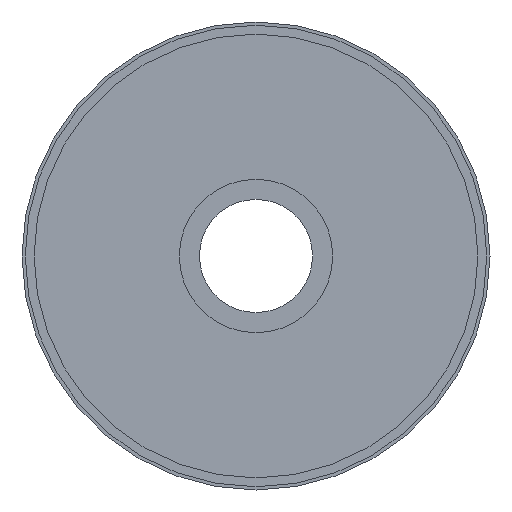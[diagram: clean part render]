
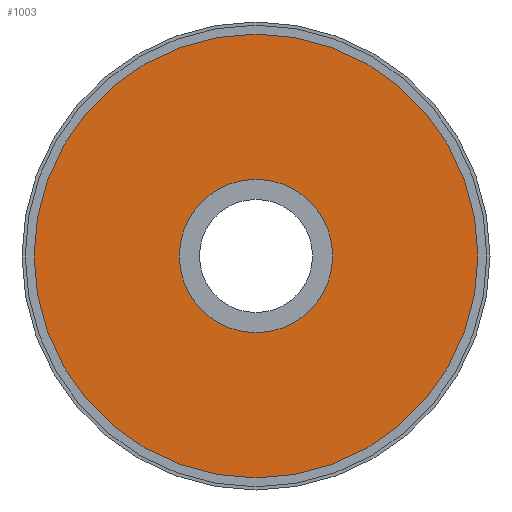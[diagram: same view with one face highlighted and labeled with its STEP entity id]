
A CAD part, front view. The second image highlights one B-rep face of the part: STEP entity #1003.
In plain terms, the highlighted planar face has unit normal (0, -1, 0).
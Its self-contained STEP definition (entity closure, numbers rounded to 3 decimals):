
#10 = CIRCLE ( 'NONE', #750, 38.05 ) ;
#11 = CARTESIAN_POINT ( 'NONE',  ( 0., 38., 0. ) ) ;
#15 = AXIS2_PLACEMENT_3D ( 'NONE', #1171, #841, #626 ) ;
#62 = EDGE_CURVE ( 'NONE', #587, #990, #10, .T. ) ;
#92 = AXIS2_PLACEMENT_3D ( 'NONE', #794, #119, #566 ) ;
#95 = EDGE_LOOP ( 'NONE', ( #738, #666 ) ) ;
#112 = EDGE_LOOP ( 'NONE', ( #642, #736 ) ) ;
#117 = DIRECTION ( 'NONE',  ( 0., -1., 0. ) ) ;
#119 = DIRECTION ( 'NONE',  ( 0., -1., 0. ) ) ;
#169 = DIRECTION ( 'NONE',  ( 0., 0., -1. ) ) ;
#195 = CARTESIAN_POINT ( 'NONE',  ( 0., 38., -38.05 ) ) ;
#331 = CIRCLE ( 'NONE', #941, 137.5 ) ;
#332 = CARTESIAN_POINT ( 'NONE',  ( 0., 38., 0. ) ) ;
#394 = FACE_BOUND ( 'NONE', #112, .T. ) ;
#399 = AXIS2_PLACEMENT_3D ( 'NONE', #332, #117, #1225 ) ;
#403 = EDGE_CURVE ( 'NONE', #990, #587, #1240, .T. ) ;
#447 = DIRECTION ( 'NONE',  ( 0., -1., 0. ) ) ;
#451 = CARTESIAN_POINT ( 'NONE',  ( 0., 38., -137.5 ) ) ;
#566 = DIRECTION ( 'NONE',  ( 0., 0., -1. ) ) ;
#572 = CIRCLE ( 'NONE', #92, 137.5 ) ;
#587 = VERTEX_POINT ( 'NONE', #195 ) ;
#626 = DIRECTION ( 'NONE',  ( 0., 0., -1. ) ) ;
#642 = ORIENTED_EDGE ( 'NONE', *, *, #62, .F. ) ;
#661 = EDGE_CURVE ( 'NONE', #743, #858, #331, .T. ) ;
#666 = ORIENTED_EDGE ( 'NONE', *, *, #661, .T. ) ;
#736 = ORIENTED_EDGE ( 'NONE', *, *, #403, .F. ) ;
#738 = ORIENTED_EDGE ( 'NONE', *, *, #1373, .T. ) ;
#743 = VERTEX_POINT ( 'NONE', #777 ) ;
#744 = CARTESIAN_POINT ( 'NONE',  ( 0., 38., 38.05 ) ) ;
#750 = AXIS2_PLACEMENT_3D ( 'NONE', #11, #447, #785 ) ;
#777 = CARTESIAN_POINT ( 'NONE',  ( 0., 38., 137.5 ) ) ;
#785 = DIRECTION ( 'NONE',  ( 0., 0., -1. ) ) ;
#794 = CARTESIAN_POINT ( 'NONE',  ( 0., 38., 0. ) ) ;
#836 = FACE_OUTER_BOUND ( 'NONE', #95, .T. ) ;
#841 = DIRECTION ( 'NONE',  ( 0., -1., 0. ) ) ;
#858 = VERTEX_POINT ( 'NONE', #451 ) ;
#941 = AXIS2_PLACEMENT_3D ( 'NONE', #1182, #1055, #169 ) ;
#990 = VERTEX_POINT ( 'NONE', #744 ) ;
#1003 = ADVANCED_FACE ( 'NONE', ( #836, #394 ), #1406, .T. ) ;
#1055 = DIRECTION ( 'NONE',  ( 0., -1., 0. ) ) ;
#1171 = CARTESIAN_POINT ( 'NONE',  ( 0., 38., -137.5 ) ) ;
#1182 = CARTESIAN_POINT ( 'NONE',  ( 0., 38., 0. ) ) ;
#1225 = DIRECTION ( 'NONE',  ( 0., 0., -1. ) ) ;
#1240 = CIRCLE ( 'NONE', #399, 38.05 ) ;
#1373 = EDGE_CURVE ( 'NONE', #858, #743, #572, .T. ) ;
#1406 = PLANE ( 'NONE',  #15 ) ;
